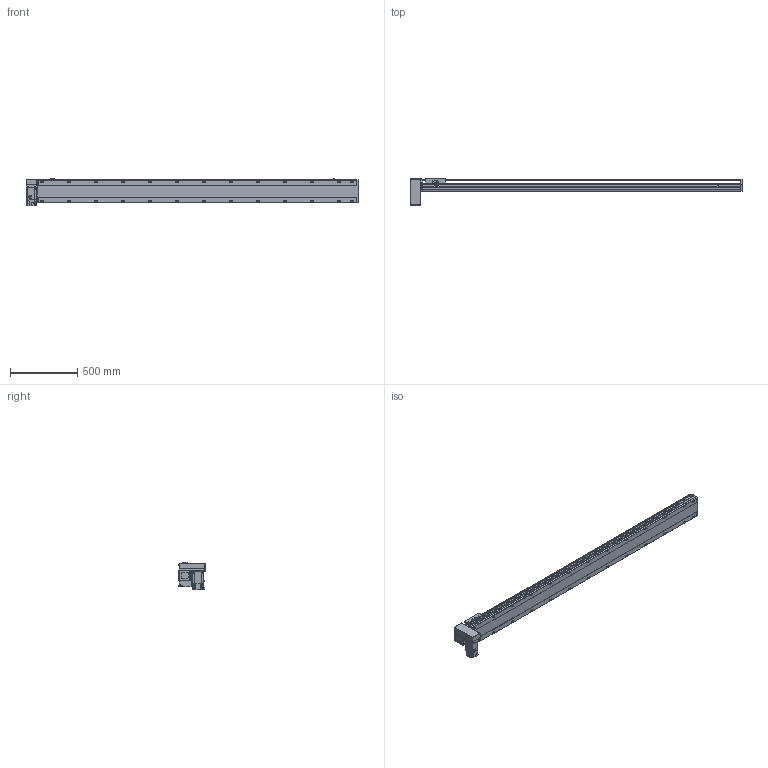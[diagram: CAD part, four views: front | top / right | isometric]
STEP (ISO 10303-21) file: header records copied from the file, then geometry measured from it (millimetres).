
FILE_DESCRIPTION(/* description */ ('STEP AP214'),/* implementation_level */ '2;1');
FILE_NAME(/* name */ 'PBS170-P40-S2100-RD-T75-C1-N(0)',/* time_stamp */ '2022-06-08T07:37:11+02:00',/* author */ ('License CC BY-ND 4.0'),/* organization */ ('CADENAS'),/* preprocessor_version */ 'ST-DEVELOPER v18.102',/* originating_system */ 'PARTsolutions',/* authorisation */ ' ');
FILE_SCHEMA (('AUTOMOTIVE_DESIGN {1 0 10303 214 3 1 1}'));
Length unit declared in the file: millimetre
Products named in the file (7): PBS170-P40-S2100-RD-T75-C1-N(0); PBS170_sensor; PBS170_plant; PBS170_sliser; T75-p1; PBS170T-RD_motors; PBS170-S2100()_body
Assembly tree (8 placements, depth 2):
  PBS170-P40-S2100-RD-T75-C1-N(0)
    PBS170_sensor  x3
    PBS170_plant
    PBS170_sliser
    T75-p1
    PBS170T-RD_motors
    PBS170-S2100()_body
Bounding box: 2463 x 201 x 205.3 mm (x, y, z)
Volume: 18827172.3 mm3; surface area: 2386226.8 mm2
Topology: 8 solids, 8 shells, 1162 faces, 3075 edges, 2004 vertices
Faces by surface type: plane 717, cylinder 379, cone 56, sphere 8, torus 2
Full cylindrical faces by diameter (mm): 3.242 x4, 4 x2, 4.4 x4, 4.5 x6, 4.917 x4, 6 x9, 6.647 x34, 7 x2, 7.5 x4, 8 x8, 8.5 x26, 10 x4, 10.5 x26, 11 x2, 30 x2, 40 x1, 70 x1
Entity records: 33408 total; most frequent: CARTESIAN_POINT 6273, DIRECTION 5650, ORIENTED_EDGE 5328, EDGE_CURVE 2664, AXIS2_PLACEMENT_3D 1987, VERTEX_POINT 1850, LINE 1676, VECTOR 1676
